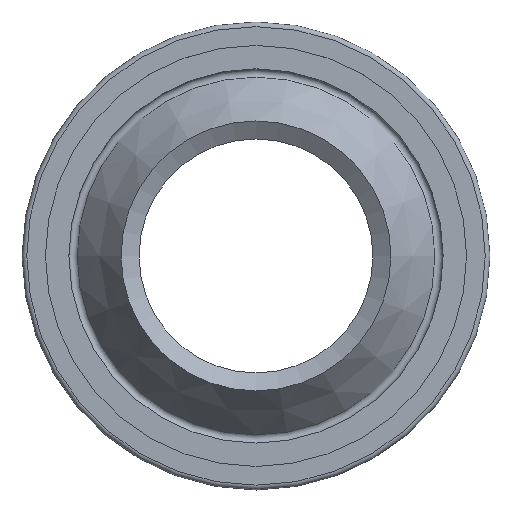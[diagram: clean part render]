
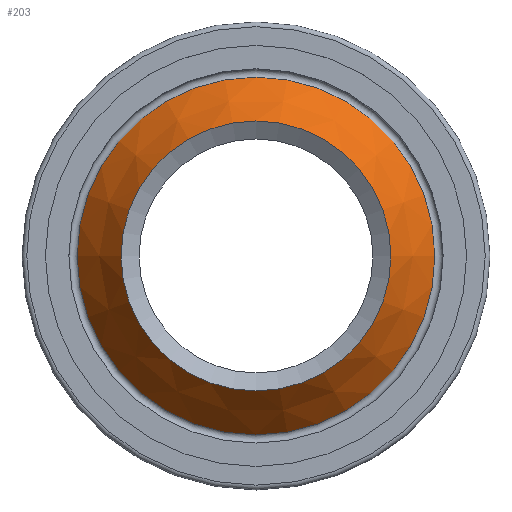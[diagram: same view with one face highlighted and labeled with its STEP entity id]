
A CAD part, top view. The second image highlights one B-rep face of the part: STEP entity #203.
In plain terms, the highlighted conical face has half-angle 37.569 degrees and reference radius 6.885 mm.
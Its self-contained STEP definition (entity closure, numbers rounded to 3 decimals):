
#15=CONICAL_SURFACE('',#252,6.885,0.656);
#27=LINE('',#376,#35);
#35=VECTOR('',#308,6.885);
#51=FACE_OUTER_BOUND('',#68,.T.);
#68=EDGE_LOOP('',(#159,#160,#161,#162));
#86=CIRCLE('',#249,7.641);
#89=CIRCLE('',#253,5.769);
#103=VERTEX_POINT('',#369);
#105=VERTEX_POINT('',#375);
#121=EDGE_CURVE('',#103,#103,#86,.T.);
#124=EDGE_CURVE('',#103,#105,#27,.T.);
#125=EDGE_CURVE('',#105,#105,#89,.T.);
#159=ORIENTED_EDGE('',*,*,#121,.F.);
#160=ORIENTED_EDGE('',*,*,#124,.T.);
#161=ORIENTED_EDGE('',*,*,#125,.T.);
#162=ORIENTED_EDGE('',*,*,#124,.F.);
#203=ADVANCED_FACE('',(#51),#15,.T.);
#249=AXIS2_PLACEMENT_3D('',#370,#300,#301);
#252=AXIS2_PLACEMENT_3D('',#374,#306,#307);
#253=AXIS2_PLACEMENT_3D('',#377,#309,#310);
#300=DIRECTION('center_axis',(0.,0.,-1.));
#301=DIRECTION('ref_axis',(1.,0.,0.));
#306=DIRECTION('center_axis',(0.,0.,-1.));
#307=DIRECTION('ref_axis',(-1.,0.,0.));
#308=DIRECTION('',(-0.61,0.,0.793));
#309=DIRECTION('center_axis',(0.,0.,-1.));
#310=DIRECTION('ref_axis',(-1.,0.,0.));
#369=CARTESIAN_POINT('',(7.641,0.,-3.034));
#370=CARTESIAN_POINT('Origin',(0.,0.,
-3.034));
#374=CARTESIAN_POINT('Origin',(0.,0.,-2.05));
#375=CARTESIAN_POINT('',(5.769,0.,-0.6));
#376=CARTESIAN_POINT('',(6.885,0.,-2.05));
#377=CARTESIAN_POINT('Origin',(0.,0.,-0.6));
